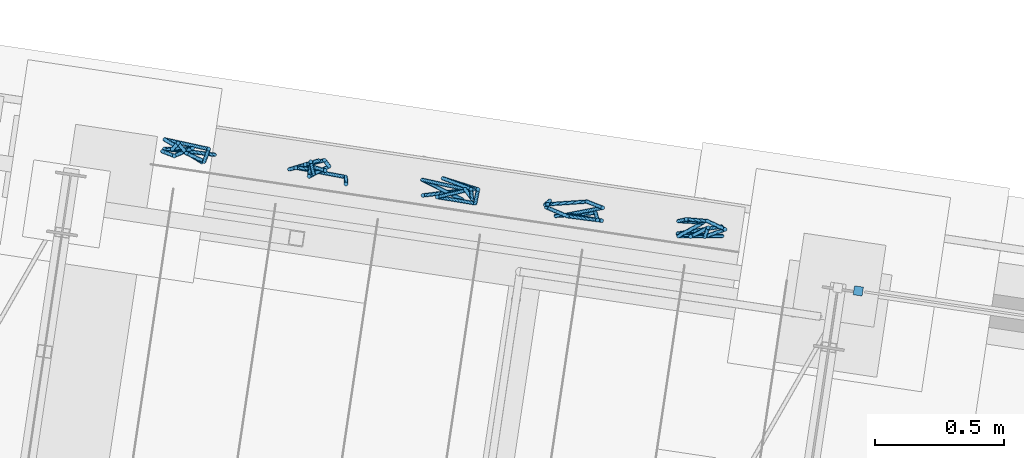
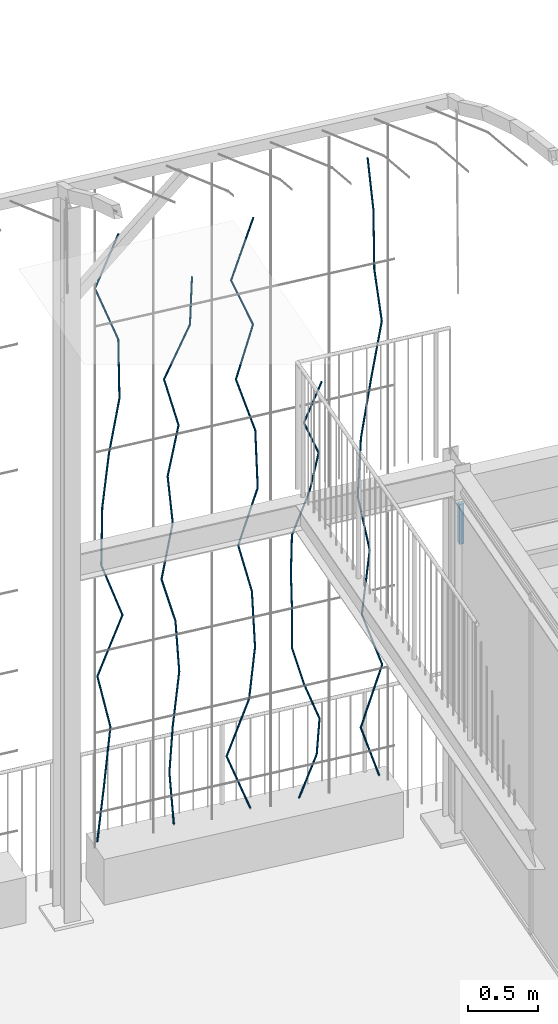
# One storey, part 115 of 143: 56 members, 1 element without a shape of its own.
"""IFC4 building model written with IfcOpenShell, lengths in metres."""

from ifc_helpers import new_model, si_unit, direction, frame, origin_with_axes, place, context, subcontext, project, spatial, rectangle, circle, extrude, material, material_profile, profile_set, profile_usage, type_object, element, aggregate, save


model = new_model("IFC4")

# Units and contexts
model_context = context("Model", 3, precision=1e-05, world=origin_with_axes(), true_north=direction((0.0, 1.0)))
body_context = subcontext(model_context, "Body", "Model", "MODEL_VIEW")
ifc_project = project(units=[si_unit("VOLUMEUNIT", "CUBIC_METRE"), si_unit("LENGTHUNIT", "METRE"), si_unit("AREAUNIT", "SQUARE_METRE")], contexts=[model_context])

# Site, building, storey
site_placement = place(None, origin_with_axes())
site = spatial("IfcSite", under=ifc_project, at=site_placement, Name="Lares · Rua das Mercês · artigo 4771")
building_placement = place(site_placement, frame((15.0, 9.7, 15.8), z_axis=(0.0, 0.0, 1.0), x_axis=(0.989015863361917, -0.147809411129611, 0.0)))
building = spatial("IfcBuilding", under=site, at=building_placement, Name="Casa Sobreposta")
storey_placement = place(building_placement, origin_with_axes())
storey = spatial("IfcBuildingStorey", under=building, at=storey_placement, Name="00 · Habitação e estacionamento", Elevation=15.8)

# Member
ifc_material_1 = material(Name="Aço pintado / Stahl lackiert", Category="steel")
ifc_material_profile_1 = material_profile(ifc_material_1, rectangle(XDim=0.035, YDim=0.035))
ifc_profile_set_1 = profile_set([ifc_material_profile_1], Name="R0.035")
ifc_profile_usage_1 = profile_usage(ifc_profile_set_1)
member_type_1 = type_object("IfcMemberType", Name="R0.035 / steel", PredefinedType="NOTDEFINED", material=ifc_profile_set_1)
member_1_placement = place(storey_placement, frame((0.08, 6.4, 2.35), z_axis=(0.0, 0.0, 1.0), x_axis=(1.0, 0.0, 0.0)))
element("IfcMember", 1, at=member_1_placement, inside=storey, type_object=member_type_1, material=ifc_profile_usage_1, Name="Rasgo norte 1 · montante", context=body_context, shape_type="SweptSolid", body=[
    extrude(rectangle(XDim=0.035, YDim=0.035), origin_with_axes(), (0.0, 0.0, 1.0), 0.35),
])

# Assembly, members
assembly_placement = place(storey_placement, origin_with_axes())
assembly = element("IfcElementAssembly", 2, at=assembly_placement, inside=storey, Name="Fachada sul e pátio · estrutura e trepadeiras", ObjectType="LIVING_SHADE_TRELLIS", PredefinedType="USERDEFINED")
ifc_material_2 = material(Name="Ramos de trepadeiras", Category="wood")
ifc_material_profile_2 = material_profile(ifc_material_2, circle(Radius=0.0075))
ifc_profile_set_2 = profile_set([ifc_material_profile_2], Name="D0.015")
ifc_profile_usage_2 = profile_usage(ifc_profile_set_2)
member_type_2 = type_object("IfcMemberType", Name="D0.015 / vine_wood", PredefinedType="NOTDEFINED", material=ifc_profile_set_2)
member_2_placement = place(assembly_placement, frame((-2.66241995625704, 6.53629999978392, 0.35), z_axis=(0.0980987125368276, -0.0226170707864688, 0.994919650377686), x_axis=(-0.224660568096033, -0.974437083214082, 0.0)))
member_2 = element("IfcMember", 3, at=member_2_placement, type_object=member_type_2, material=ifc_profile_usage_2, Name="Trepadeiras · ramo", context=body_context, shape_type="SweptSolid", body=[
    extrude(circle(Radius=0.0075), origin_with_axes(), (0.0, 0.0, 1.0), 0.482973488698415),
])
ifc_profile_usage_3 = profile_usage(ifc_profile_set_2)
member_3_placement = place(assembly_placement, frame((-2.61504087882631, 6.52537655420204, 0.830519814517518), z_axis=(0.135008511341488, 0.0817946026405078, 0.987462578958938), x_axis=(0.518168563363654, -0.855278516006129, 0.0)))
member_3 = element("IfcMember", 4, at=member_3_placement, type_object=member_type_2, material=ifc_profile_usage_3, Name="Trepadeiras · ramo", context=body_context, shape_type="SweptSolid", body=[
    extrude(circle(Radius=0.0075), origin_with_axes(), (0.0, 0.0, 1.0), 0.486620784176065),
])
ifc_profile_usage_4 = profile_usage(ifc_profile_set_2)
member_4_placement = place(assembly_placement, frame((-2.54934293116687, 6.56517950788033, 1.31103962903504), z_axis=(-0.218609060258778, -0.0389522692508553, 0.975034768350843), x_axis=(-0.17541938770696, 0.984493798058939, 0.0)))
member_4 = element("IfcMember", 5, at=member_4_placement, type_object=member_type_2, material=ifc_profile_usage_4, Name="Trepadeiras · ramo", context=body_context, shape_type="SweptSolid", body=[
    extrude(circle(Radius=0.0075), origin_with_axes(), (0.0, 0.0, 1.0), 0.492823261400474),
])
ifc_profile_usage_5 = profile_usage(ifc_profile_set_2)
member_5_placement = place(assembly_placement, frame((-2.65707856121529, 6.54598292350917, 1.79155944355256), z_axis=(0.376987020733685, 0.0134283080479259, 0.926121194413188), x_axis=(0.0355975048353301, -0.999366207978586, 0.0)))
member_5 = element("IfcMember", 6, at=member_5_placement, type_object=member_type_2, material=ifc_profile_usage_5, Name="Trepadeiras · ramo", context=body_context, shape_type="SweptSolid", body=[
    extrude(circle(Radius=0.0075), origin_with_axes(), (0.0, 0.0, 1.0), 0.518851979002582),
])
ifc_profile_usage_6 = profile_usage(ifc_profile_set_2)
member_6_placement = place(assembly_placement, frame((-2.46147809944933, 6.5529502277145, 2.27207925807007), z_axis=(-0.323902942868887, -0.0066980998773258, 0.946066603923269), x_axis=(-0.0206749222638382, 0.999786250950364, 0.0)))
member_6 = element("IfcMember", 7, at=member_6_placement, type_object=member_type_2, material=ifc_profile_usage_6, Name="Trepadeiras · ramo", context=body_context, shape_type="SweptSolid", body=[
    extrude(circle(Radius=0.0075), origin_with_axes(), (0.0, 0.0, 1.0), 0.507913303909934),
])
ifc_profile_usage_7 = profile_usage(ifc_profile_set_2)
member_7_placement = place(assembly_placement, frame((-2.62599271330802, 6.54954817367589, 2.75259907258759), z_axis=(0.0384024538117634, 0.0563066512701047, 0.997674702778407), x_axis=(0.826148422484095, -0.563452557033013, 0.0)))
member_7 = element("IfcMember", 8, at=member_7_placement, type_object=member_type_2, material=ifc_profile_usage_7, Name="Trepadeiras · ramo", context=body_context, shape_type="SweptSolid", body=[
    extrude(circle(Radius=0.0075), origin_with_axes(), (0.0, 0.0, 1.0), 0.481639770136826),
])
ifc_profile_usage_8 = profile_usage(ifc_profile_set_2)
member_8_placement = place(assembly_placement, frame((-2.60749656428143, 6.57666769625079, 3.23311888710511), z_axis=(0.0776410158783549, -0.0701661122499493, 0.994509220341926), x_axis=(-0.670490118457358, -0.741918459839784, 0.0)))
member_8 = element("IfcMember", 9, at=member_8_placement, type_object=member_type_2, material=ifc_profile_usage_8, Name="Trepadeiras · ramo", context=body_context, shape_type="SweptSolid", body=[
    extrude(circle(Radius=0.0075), origin_with_axes(), (0.0, 0.0, 1.0), 0.483172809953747),
])
ifc_profile_usage_9 = profile_usage(ifc_profile_set_2)
member_9_placement = place(assembly_placement, frame((-2.56998253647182, 6.54276533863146, 3.71363870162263), z_axis=(0.149871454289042, -0.0436983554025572, 0.987739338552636), x_axis=(-0.279916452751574, -0.960024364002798, 0.0)))
member_9 = element("IfcMember", 10, at=member_9_placement, type_object=member_type_2, material=ifc_profile_usage_9, Name="Trepadeiras · ramo", context=body_context, shape_type="SweptSolid", body=[
    extrude(circle(Radius=0.0075), origin_with_axes(), (0.0, 0.0, 1.0), 0.486484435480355),
])
ifc_profile_usage_10 = profile_usage(ifc_profile_set_2)
member_10_placement = place(assembly_placement, frame((-2.4970724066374, 6.52150676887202, 4.19415851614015), z_axis=(0.021645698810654, 0.103291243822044, 0.994415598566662), x_axis=(0.978740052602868, -0.205104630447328, 0.0)))
member_10 = element("IfcMember", 11, at=member_10_placement, type_object=member_type_2, material=ifc_profile_usage_10, Name="Trepadeiras · ramo", context=body_context, shape_type="SweptSolid", body=[
    extrude(circle(Radius=0.0075), origin_with_axes(), (0.0, 0.0, 1.0), 0.483218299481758),
])
ifc_profile_usage_11 = profile_usage(ifc_profile_set_2)
member_11_placement = place(assembly_placement, frame((-2.48661280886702, 6.57141898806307, 4.67467833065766), z_axis=(-0.34084918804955, 0.0223344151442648, 0.939852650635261), x_axis=(0.0653855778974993, 0.997860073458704, 0.0)))
member_11 = element("IfcMember", 12, at=member_11_placement, type_object=member_type_2, material=ifc_profile_usage_11, Name="Trepadeiras · ramo", context=body_context, shape_type="SweptSolid", body=[
    extrude(circle(Radius=0.0075), origin_with_axes(), (0.0, 0.0, 1.0), 0.511271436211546),
])
ifc_profile_usage_12 = profile_usage(ifc_profile_set_2)
member_12_placement = place(assembly_placement, frame((-2.66087926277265, 6.58283793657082, 5.15519814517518), z_axis=(0.304730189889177, -0.127303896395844, 0.943892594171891), x_axis=(-0.385474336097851, -0.92271855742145, 0.0)))
member_12 = element("IfcMember", 13, at=member_12_placement, type_object=member_type_2, material=ifc_profile_usage_12, Name="Trepadeiras · ramo", context=body_context, shape_type="SweptSolid", body=[
    extrude(circle(Radius=0.0075), origin_with_axes(), (0.0, 0.0, 1.0), 0.509083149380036),
])
ifc_profile_usage_13 = profile_usage(ifc_profile_set_2)
member_13_placement = place(assembly_placement, frame((-2.07205180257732, 6.53766977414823, 0.35), z_axis=(-0.0394783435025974, 0.10080487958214, 0.99412264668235), x_axis=(0.931139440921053, 0.364663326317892, 0.0)))
member_13 = element("IfcMember", 14, at=member_13_placement, type_object=member_type_2, material=ifc_profile_usage_13, Name="Trepadeiras · ramo", context=body_context, shape_type="SweptSolid", body=[
    extrude(circle(Radius=0.0075), origin_with_axes(), (0.0, 0.0, 1.0), 0.435980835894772),
])
ifc_profile_usage_14 = profile_usage(ifc_profile_set_2)
member_14_placement = place(assembly_placement, frame((-2.08926360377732, 6.58161876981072, 0.783418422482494), z_axis=(0.00546412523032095, -0.131646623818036, 0.991281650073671), x_axis=(-0.999139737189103, -0.0414702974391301, 0.0)))
member_14 = element("IfcMember", 15, at=member_14_placement, type_object=member_type_2, material=ifc_profile_usage_14, Name="Trepadeiras · ramo", context=body_context, shape_type="SweptSolid", body=[
    extrude(circle(Radius=0.0075), origin_with_axes(), (0.0, 0.0, 1.0), 0.437230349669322),
])
ifc_profile_usage_15 = profile_usage(ifc_profile_set_2)
member_15_placement = place(assembly_placement, frame((-2.08687452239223, 6.52405887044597, 1.21683684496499), z_axis=(0.159219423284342, 0.113560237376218, 0.980690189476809), x_axis=(0.580669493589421, -0.814139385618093, 0.0)))
member_15 = element("IfcMember", 16, at=member_15_placement, type_object=member_type_2, material=ifc_profile_usage_15, Name="Trepadeiras · ramo", context=body_context, shape_type="SweptSolid", body=[
    extrude(circle(Radius=0.0075), origin_with_axes(), (0.0, 0.0, 1.0), 0.441952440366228),
])
ifc_profile_usage_16 = profile_usage(ifc_profile_set_2)
member_16_placement = place(assembly_placement, frame((-2.01650710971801, 6.57424709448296, 1.65025526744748), z_axis=(-0.0483811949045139, 0.0474077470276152, 0.997703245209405), x_axis=(0.699884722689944, 0.714255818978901, 0.0)))
member_16 = element("IfcMember", 17, at=member_16_placement, type_object=member_type_2, material=ifc_profile_usage_16, Name="Trepadeiras · ramo", context=body_context, shape_type="SweptSolid", body=[
    extrude(circle(Radius=0.0075), origin_with_axes(), (0.0, 0.0, 1.0), 0.434416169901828),
])
ifc_profile_usage_17 = profile_usage(ifc_profile_set_2)
member_17_placement = place(assembly_placement, frame((-2.03752468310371, 6.59484178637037, 2.08367368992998), z_axis=(-0.28279176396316, -0.120579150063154, 0.95157211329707), x_axis=(-0.392222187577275, 0.919870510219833, -2.14779037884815e-17)))
member_17 = element("IfcMember", 18, at=member_17_placement, type_object=member_type_2, material=ifc_profile_usage_17, Name="Trepadeiras · ramo", context=body_context, shape_type="SweptSolid", body=[
    extrude(circle(Radius=0.0075), origin_with_axes(), (0.0, 0.0, 1.0), 0.455476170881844),
])
ifc_profile_usage_18 = profile_usage(ifc_profile_set_2)
member_18_placement = place(assembly_placement, frame((-2.16632959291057, 6.53992085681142, 2.51709211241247), z_axis=(0.235859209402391, 0.111435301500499, 0.965376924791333), x_axis=(0.427186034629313, -0.904163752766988, 0.0)))
member_18 = element("IfcMember", 19, at=member_18_placement, type_object=member_type_2, material=ifc_profile_usage_18, Name="Trepadeiras · ramo", context=body_context, shape_type="SweptSolid", body=[
    extrude(circle(Radius=0.0075), origin_with_axes(), (0.0, 0.0, 1.0), 0.448962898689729),
])
ifc_profile_usage_19 = profile_usage(ifc_profile_set_2)
member_19_placement = place(assembly_placement, frame((-2.0604375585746, 6.58995117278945, 2.95051053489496), z_axis=(-0.110181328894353, -0.0517286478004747, 0.992564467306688), x_axis=(-0.424980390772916, 0.905202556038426, 0.0)))
member_19 = element("IfcMember", 20, at=member_19_placement, type_object=member_type_2, material=ifc_profile_usage_19, Name="Trepadeiras · ramo", context=body_context, shape_type="SweptSolid", body=[
    extrude(circle(Radius=0.0075), origin_with_axes(), (0.0, 0.0, 1.0), 0.436665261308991),
])
ifc_profile_usage_20 = profile_usage(ifc_profile_set_2)
member_20_placement = place(assembly_placement, frame((-2.10854991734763, 6.56736306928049, 3.38392895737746), z_axis=(0.180465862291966, -0.0257609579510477, 0.983243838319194), x_axis=(-0.141314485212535, -0.989964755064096, 0.0)))
member_20 = element("IfcMember", 21, at=member_20_placement, type_object=member_type_2, material=ifc_profile_usage_20, Name="Trepadeiras · ramo", context=body_context, shape_type="SweptSolid", body=[
    extrude(circle(Radius=0.0075), origin_with_axes(), (0.0, 0.0, 1.0), 0.440804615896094),
])
ifc_profile_usage_21 = profile_usage(ifc_profile_set_2)
member_21_placement = place(assembly_placement, frame((-2.02899973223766, 6.55600752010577, 3.81734737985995), z_axis=(-0.254599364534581, -0.0136352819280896, 0.966950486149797), x_axis=(-0.053479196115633, 0.998568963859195, 0.0)))
member_21 = element("IfcMember", 22, at=member_21_placement, type_object=member_type_2, material=ifc_profile_usage_21, Name="Trepadeiras · ramo", context=body_context, shape_type="SweptSolid", body=[
    extrude(circle(Radius=0.0075), origin_with_axes(), (0.0, 0.0, 1.0), 0.448232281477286),
])
ifc_profile_usage_22 = profile_usage(ifc_profile_set_2)
member_22_placement = place(assembly_placement, frame((-2.14311938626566, 6.54989574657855, 4.25076580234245), z_axis=(0.413277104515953, -0.0153882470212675, 0.910475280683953), x_axis=(-0.0372089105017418, -0.999307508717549, 1.90952884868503e-18)))
member_22 = element("IfcMember", 23, at=member_22_placement, type_object=member_type_2, material=ifc_profile_usage_22, Name="Trepadeiras · ramo", context=body_context, shape_type="SweptSolid", body=[
    extrude(circle(Radius=0.0075), origin_with_axes(), (0.0, 0.0, 1.0), 0.476035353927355),
])
ifc_profile_usage_23 = profile_usage(ifc_profile_set_2)
member_23_placement = place(assembly_placement, frame((-1.94638487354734, 6.54257039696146, 4.68418422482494), z_axis=(0.0110075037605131, -0.061857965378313, 0.998024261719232), x_axis=(-0.984533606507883, -0.175195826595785, 0.0)))
member_23 = element("IfcMember", 24, at=member_23_placement, type_object=member_type_2, material=ifc_profile_usage_23, Name="Trepadeiras · ramo", context=body_context, shape_type="SweptSolid", body=[
    extrude(circle(Radius=0.0075), origin_with_axes(), (0.0, 0.0, 1.0), 0.434276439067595),
])
ifc_profile_usage_24 = profile_usage(ifc_profile_set_2)
member_24_placement = place(assembly_placement, frame((-1.4880449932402, 6.52300224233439, 0.35), z_axis=(-0.329931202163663, 0.106180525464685, 0.938014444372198), x_axis=(0.306352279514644, 0.951918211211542, 0.0)))
member_24 = element("IfcMember", 25, at=member_24_placement, type_object=member_type_2, material=ifc_profile_usage_24, Name="Trepadeiras · ramo", context=body_context, shape_type="SweptSolid", body=[
    extrude(circle(Radius=0.0075), origin_with_axes(), (0.0, 0.0, 1.0), 0.496490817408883),
])
ifc_profile_usage_25 = profile_usage(ifc_profile_set_2)
member_25_placement = place(assembly_placement, frame((-1.65185280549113, 6.57571989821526, 0.815715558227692), z_axis=(0.340456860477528, -0.0227078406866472, 0.939985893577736), x_axis=(-0.0665502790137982, -0.997783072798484, 0.0)))
member_25 = element("IfcMember", 26, at=member_25_placement, type_object=member_type_2, material=ifc_profile_usage_25, Name="Trepadeiras · ramo", context=body_context, shape_type="SweptSolid", body=[
    extrude(circle(Radius=0.0075), origin_with_axes(), (0.0, 0.0, 1.0), 0.495449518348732),
])
ifc_profile_usage_26 = profile_usage(ifc_profile_set_2)
member_26_placement = place(assembly_placement, frame((-1.48317361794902, 6.56446930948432, 1.28143111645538), z_axis=(0.0695333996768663, -0.0700445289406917, 0.995117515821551), x_axis=(-0.709691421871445, -0.704512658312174, 8.74520446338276e-18)))
member_26 = element("IfcMember", 27, at=member_26_placement, type_object=member_type_2, material=ifc_profile_usage_26, Name="Trepadeiras · ramo", context=body_context, shape_type="SweptSolid", body=[
    extrude(circle(Radius=0.0075), origin_with_axes(), (0.0, 0.0, 1.0), 0.468000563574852),
])
ifc_profile_usage_27 = profile_usage(ifc_profile_set_2)
member_27_placement = place(assembly_placement, frame((-1.45063194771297, 6.53168843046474, 1.74714667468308), z_axis=(-0.0210306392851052, 0.076673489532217, 0.996834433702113), x_axis=(0.964380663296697, 0.264518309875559, 0.0)))
member_27 = element("IfcMember", 28, at=member_27_placement, type_object=member_type_2, material=ifc_profile_usage_27, Name="Trepadeiras · ramo", context=body_context, shape_type="SweptSolid", body=[
    extrude(circle(Radius=0.0075), origin_with_axes(), (0.0, 0.0, 1.0), 0.467194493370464),
])
ifc_profile_usage_28 = profile_usage(ifc_profile_set_2)
member_28_placement = place(assembly_placement, frame((-1.46045734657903, 6.56750986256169, 2.21286223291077), z_axis=(-0.25756955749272, -0.101450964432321, 0.96091915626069), x_axis=(-0.366475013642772, 0.930427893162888, 0.0)))
member_28 = element("IfcMember", 29, at=member_28_placement, type_object=member_type_2, material=ifc_profile_usage_28, Name="Trepadeiras · ramo", context=body_context, shape_type="SweptSolid", body=[
    extrude(circle(Radius=0.0075), origin_with_axes(), (0.0, 0.0, 1.0), 0.484656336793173),
])
ifc_profile_usage_29 = profile_usage(ifc_profile_set_2)
member_29_placement = place(assembly_placement, frame((-1.58529006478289, 6.51834100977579, 2.67857779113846), z_axis=(0.305092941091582, -0.00422862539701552, 0.952313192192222), x_axis=(-0.0138587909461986, -0.999903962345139, 0.0)))
member_29 = element("IfcMember", 30, at=member_29_placement, type_object=member_type_2, material=ifc_profile_usage_29, Name="Trepadeiras · ramo", context=body_context, shape_type="SweptSolid", body=[
    extrude(circle(Radius=0.0075), origin_with_axes(), (0.0, 0.0, 1.0), 0.489036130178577),
])
ifc_profile_usage_30 = profile_usage(ifc_profile_set_2)
member_30_placement = place(assembly_placement, frame((-1.43608859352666, 6.51627305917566, 3.14429334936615), z_axis=(0.00592236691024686, 0.116385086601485, 0.993186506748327), x_axis=(0.998707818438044, -0.0508202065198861, 0.0)))
member_30 = element("IfcMember", 31, at=member_30_placement, type_object=member_type_2, material=ifc_profile_usage_30, Name="Trepadeiras · ramo", context=body_context, shape_type="SweptSolid", body=[
    extrude(circle(Radius=0.0075), origin_with_axes(), (0.0, 0.0, 1.0), 0.468910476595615),
])
ifc_profile_usage_31 = profile_usage(ifc_profile_set_2)
member_31_placement = place(assembly_placement, frame((-1.43331153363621, 6.57084724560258, 3.61000890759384), z_axis=(-0.287457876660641, 0.0458000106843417, 0.956697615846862), x_axis=(0.157343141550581, 0.987543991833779, 0.0)))
member_31 = element("IfcMember", 32, at=member_31_placement, type_object=member_type_2, material=ifc_profile_usage_31, Name="Trepadeiras · ramo", context=body_context, shape_type="SweptSolid", body=[
    extrude(circle(Radius=0.0075), origin_with_axes(), (0.0, 0.0, 1.0), 0.486794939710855),
])
ifc_profile_usage_32 = profile_usage(ifc_profile_set_2)
member_32_placement = place(assembly_placement, frame((-1.57324457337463, 6.59314245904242, 4.07572446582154), z_axis=(0.251593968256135, -0.0539595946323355, 0.966327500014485), x_axis=(-0.209702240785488, -0.977765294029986, 6.51461848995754e-18)))
member_32 = element("IfcMember", 33, at=member_32_placement, type_object=member_type_2, material=ifc_profile_usage_32, Name="Trepadeiras · ramo", context=body_context, shape_type="SweptSolid", body=[
    extrude(circle(Radius=0.0075), origin_with_axes(), (0.0, 0.0, 1.0), 0.481943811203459),
])
ifc_profile_usage_33 = profile_usage(ifc_profile_set_2)
member_33_placement = place(assembly_placement, frame((-1.45199041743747, 6.56713696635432, 4.54144002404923), z_axis=(-0.373949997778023, -0.10054929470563, 0.92198223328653), x_axis=(-0.259661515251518, 0.965699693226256, 0.0)))
member_33 = element("IfcMember", 34, at=member_33_placement, type_object=member_type_2, material=ifc_profile_usage_33, Name="Trepadeiras · ramo", context=body_context, shape_type="SweptSolid", body=[
    extrude(circle(Radius=0.0075), origin_with_axes(), (0.0, 0.0, 1.0), 0.505124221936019),
])
ifc_profile_usage_34 = profile_usage(ifc_profile_set_2)
member_34_placement = place(assembly_placement, frame((-1.64088161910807, 6.51634708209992, 5.00715558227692), z_axis=(0.381785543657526, 0.109148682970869, 0.917783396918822), x_axis=(0.274877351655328, -0.961479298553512, 0.0)))
member_34 = element("IfcMember", 35, at=member_34_placement, type_object=member_type_2, material=ifc_profile_usage_34, Name="Trepadeiras · ramo", context=body_context, shape_type="SweptSolid", body=[
    extrude(circle(Radius=0.0075), origin_with_axes(), (0.0, 0.0, 1.0), 0.507435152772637),
])
ifc_profile_usage_35 = profile_usage(ifc_profile_set_2)
member_35_placement = place(assembly_placement, frame((-1.12149175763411, 6.51383701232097, 0.35), z_axis=(0.419290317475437, 0.0947729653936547, 0.902891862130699), x_axis=(0.220470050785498, -0.975393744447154, 0.0)))
member_35 = element("IfcMember", 36, at=member_35_placement, type_object=member_type_2, material=ifc_profile_usage_35, Name="Trepadeiras · ramo", context=body_context, shape_type="SweptSolid", body=[
    extrude(circle(Radius=0.0075), origin_with_axes(), (0.0, 0.0, 1.0), 0.361500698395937),
])
ifc_profile_usage_36 = profile_usage(ifc_profile_set_2)
member_36_placement = place(assembly_placement, frame((-0.969918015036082, 6.54809750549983, 0.676396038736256), z_axis=(0.03525048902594, -0.0797363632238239, 0.996192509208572), x_axis=(-0.914609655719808, -0.404337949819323, 0.0)))
member_36 = element("IfcMember", 37, at=member_36_placement, type_object=member_type_2, material=ifc_profile_usage_36, Name="Trepadeiras · ramo", context=body_context, shape_type="SweptSolid", body=[
    extrude(circle(Radius=0.0075), origin_with_axes(), (0.0, 0.0, 1.0), 0.327643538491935),
])
ifc_profile_usage_37 = profile_usage(ifc_profile_set_2)
member_37_placement = place(assembly_placement, frame((-0.958368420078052, 6.52197240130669, 1.00279207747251), z_axis=(-0.3399758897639, -0.00695236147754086, 0.940408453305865), x_axis=(-0.0204452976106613, 0.999790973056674, 0.0)))
member_37 = element("IfcMember", 38, at=member_37_placement, type_object=member_type_2, material=ifc_profile_usage_37, Name="Trepadeiras · ramo", context=body_context, shape_type="SweptSolid", body=[
    extrude(circle(Radius=0.0075), origin_with_axes(), (0.0, 0.0, 1.0), 0.347079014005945),
])
ifc_profile_usage_38 = profile_usage(ifc_profile_set_2)
member_38_placement = place(assembly_placement, frame((-1.0763669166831, 6.51955938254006, 1.32918811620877), z_axis=(-0.252592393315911, 0.065290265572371, 0.965367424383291), x_axis=(0.250255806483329, 0.968179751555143, 0.0)))
member_38 = element("IfcMember", 39, at=member_38_placement, type_object=member_type_2, material=ifc_profile_usage_38, Name="Trepadeiras · ramo", context=body_context, shape_type="SweptSolid", body=[
    extrude(circle(Radius=0.0075), origin_with_axes(), (0.0, 0.0, 1.0), 0.338105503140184),
])
ifc_profile_usage_39 = profile_usage(ifc_profile_set_2)
member_39_placement = place(assembly_placement, frame((-1.16176979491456, 6.54163438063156, 1.65558415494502), z_axis=(0.028988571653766, 0.0810829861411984, 0.996285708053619), x_axis=(0.941630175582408, -0.336649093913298, 5.01770122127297e-18)))
member_39 = element("IfcMember", 40, at=member_39_placement, type_object=member_type_2, material=ifc_profile_usage_39, Name="Trepadeiras · ramo", context=body_context, shape_type="SweptSolid", body=[
    extrude(circle(Radius=0.0075), origin_with_axes(), (0.0, 0.0, 1.0), 0.3276128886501),
])
ifc_profile_usage_40 = profile_usage(ifc_profile_set_2)
member_40_placement = place(assembly_placement, frame((-1.15227276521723, 6.56819821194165, 1.98198019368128), z_axis=(-0.0447219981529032, -0.0524916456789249, 0.997619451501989), x_axis=(-0.761193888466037, 0.648524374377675, 0.0)))
member_40 = element("IfcMember", 41, at=member_40_placement, type_object=member_type_2, material=ifc_profile_usage_40, Name="Trepadeiras · ramo", context=body_context, shape_type="SweptSolid", body=[
    extrude(circle(Radius=0.0075), origin_with_axes(), (0.0, 0.0, 1.0), 0.327174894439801),
])
ifc_profile_usage_41 = profile_usage(ifc_profile_set_2)
member_41_placement = place(assembly_placement, frame((-1.16690468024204, 6.55102426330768, 2.30837623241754), z_axis=(0.0266388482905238, 0.00867833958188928, 0.999607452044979), x_axis=(0.999645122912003, -0.000231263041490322, -0.0266378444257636)))
member_41 = element("IfcMember", 42, at=member_41_placement, type_object=member_type_2, material=ifc_profile_usage_41, Name="Trepadeiras · ramo", context=body_context, shape_type="SweptSolid", body=[
    extrude(circle(Radius=0.0075), origin_with_axes(), (0.0, 0.0, 1.0), 0.326524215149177),
])
ifc_profile_usage_42 = profile_usage(ifc_profile_set_2)
member_42_placement = place(assembly_placement, frame((-1.1582064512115, 6.55385795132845, 2.63477227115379), z_axis=(0.413754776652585, 0.091014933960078, 0.905827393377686), x_axis=(0.214836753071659, -0.976649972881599, 0.0)))
member_42 = element("IfcMember", 43, at=member_42_placement, type_object=member_type_2, material=ifc_profile_usage_42, Name="Trepadeiras · ramo", context=body_context, shape_type="SweptSolid", body=[
    extrude(circle(Radius=0.0075), origin_with_axes(), (0.0, 0.0, 1.0), 0.360329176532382),
])
ifc_profile_usage_43 = profile_usage(ifc_profile_set_2)
member_43_placement = place(assembly_placement, frame((-1.00911853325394, 6.58665328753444, 2.96116830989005), z_axis=(0.190447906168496, -0.0442232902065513, 0.980700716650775), x_axis=(-0.226188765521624, -0.974083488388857, 0.0)))
member_43 = element("IfcMember", 44, at=member_43_placement, type_object=member_type_2, material=ifc_profile_usage_43, Name="Trepadeiras · ramo", context=body_context, shape_type="SweptSolid", body=[
    extrude(circle(Radius=0.0075), origin_with_axes(), (0.0, 0.0, 1.0), 0.332819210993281),
])
ifc_profile_usage_44 = profile_usage(ifc_profile_set_2)
member_44_placement = place(assembly_placement, frame((-0.945733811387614, 6.57193492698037, 3.2875643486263), z_axis=(-0.370023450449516, -0.13105571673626, 0.919732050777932), x_axis=(-0.333860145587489, 0.942622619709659, 0.0)))
member_44 = element("IfcMember", 45, at=member_44_placement, type_object=member_type_2, material=ifc_profile_usage_44, Name="Trepadeiras · ramo", context=body_context, shape_type="SweptSolid", body=[
    extrude(circle(Radius=0.0075), origin_with_axes(), (0.0, 0.0, 1.0), 0.354881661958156),
])
ifc_profile_usage_45 = profile_usage(ifc_profile_set_2)
member_45_placement = place(assembly_placement, frame((-1.07704834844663, 6.52542565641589, 3.61396038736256), z_axis=(0.383115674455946, -0.00913298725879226, 0.923655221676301), x_axis=(-0.023831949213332, -0.999715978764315, 0.0)))
member_45 = element("IfcMember", 46, at=member_45_placement, type_object=member_type_2, material=ifc_profile_usage_45, Name="Trepadeiras · ramo", context=body_context, shape_type="SweptSolid", body=[
    extrude(circle(Radius=0.0075), origin_with_axes(), (0.0, 0.0, 1.0), 0.353374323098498),
])
ifc_profile_usage_46 = profile_usage(ifc_profile_set_2)
member_46_placement = place(assembly_placement, frame((-0.480399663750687, 6.56797704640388, 0.35), z_axis=(-0.311350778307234, -0.0987830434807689, 0.945146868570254), x_axis=(-0.302416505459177, 0.953175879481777, 0.0)))
member_46 = element("IfcMember", 47, at=member_46_placement, type_object=member_type_2, material=ifc_profile_usage_46, Name="Trepadeiras · ramo", context=body_context, shape_type="SweptSolid", body=[
    extrude(circle(Radius=0.0075), origin_with_axes(), (0.0, 0.0, 1.0), 0.525354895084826),
])
ifc_profile_usage_47 = profile_usage(ifc_profile_set_2)
member_47_placement = place(assembly_placement, frame((-0.643969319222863, 6.51608089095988, 0.846537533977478), z_axis=(0.326477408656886, 0.0315753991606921, 0.944677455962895), x_axis=(0.0962662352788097, -0.995355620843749, 0.0)))
member_47 = element("IfcMember", 48, at=member_47_placement, type_object=member_type_2, material=ifc_profile_usage_47, Name="Trepadeiras · ramo", context=body_context, shape_type="SweptSolid", body=[
    extrude(circle(Radius=0.0075), origin_with_axes(), (0.0, 0.0, 1.0), 0.525615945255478),
])
ifc_profile_usage_48 = profile_usage(ifc_profile_set_2)
member_48_placement = place(assembly_placement, frame((-0.472367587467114, 6.53267742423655, 1.34307506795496), z_axis=(-0.317839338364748, -0.0486385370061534, 0.946896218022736), x_axis=(-0.151267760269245, 0.98849282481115, 0.0)))
member_48 = element("IfcMember", 49, at=member_48_placement, type_object=member_type_2, material=ifc_profile_usage_48, Name="Trepadeiras · ramo", context=body_context, shape_type="SweptSolid", body=[
    extrude(circle(Radius=0.0075), origin_with_axes(), (0.0, 0.0, 1.0), 0.524384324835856),
])
ifc_profile_usage_49 = profile_usage(ifc_profile_set_2)
member_49_placement = place(assembly_placement, frame((-0.639037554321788, 6.50717213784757, 1.83961260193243), z_axis=(0.170832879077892, 0.130242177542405, 0.976654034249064), x_axis=(0.606289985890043, -0.795243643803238, 0.0)))
member_49 = element("IfcMember", 50, at=member_49_placement, type_object=member_type_2, material=ifc_profile_usage_49, Name="Trepadeiras · ramo", context=body_context, shape_type="SweptSolid", body=[
    extrude(circle(Radius=0.0075), origin_with_axes(), (0.0, 0.0, 1.0), 0.508406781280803),
])
ifc_profile_usage_50 = profile_usage(ifc_profile_set_2)
member_50_placement = place(assembly_placement, frame((-0.552184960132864, 6.57338814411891, 2.33615013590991), z_axis=(-0.188994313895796, -0.0178059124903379, 0.98181673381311), x_axis=(-0.0937986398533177, 0.995591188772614, 0.0)))
member_50 = element("IfcMember", 51, at=member_50_placement, type_object=member_type_2, material=ifc_profile_usage_50, Name="Trepadeiras · ramo", context=body_context, shape_type="SweptSolid", body=[
    extrude(circle(Radius=0.0075), origin_with_axes(), (0.0, 0.0, 1.0), 0.505733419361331),
])
ifc_profile_usage_51 = profile_usage(ifc_profile_set_2)
member_51_placement = place(assembly_placement, frame((-0.647765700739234, 6.56438309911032, 2.83268766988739), z_axis=(0.0575558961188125, 0.0225222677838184, 0.998088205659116), x_axis=(0.364404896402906, -0.931240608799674, 0.0)))
member_51 = element("IfcMember", 52, at=member_51_placement, type_object=member_type_2, material=ifc_profile_usage_51, Name="Trepadeiras · ramo", context=body_context, shape_type="SweptSolid", body=[
    extrude(circle(Radius=0.0075), origin_with_axes(), (0.0, 0.0, 1.0), 0.497488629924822),
])
ifc_profile_usage_52 = profile_usage(ifc_profile_set_2)
member_52_placement = place(assembly_placement, frame((-0.61913229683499, 6.57558767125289, 3.32922520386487), z_axis=(0.160045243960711, 0.0106902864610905, 0.987051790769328), x_axis=(0.0666468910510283, -0.997776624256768, 0.0)))
member_52 = element("IfcMember", 53, at=member_52_placement, type_object=member_type_2, material=ifc_profile_usage_52, Name="Trepadeiras · ramo", context=body_context, shape_type="SweptSolid", body=[
    extrude(circle(Radius=0.0075), origin_with_axes(), (0.0, 0.0, 1.0), 0.503051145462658),
])
ifc_profile_usage_53 = profile_usage(ifc_profile_set_2)
member_53_placement = place(assembly_placement, frame((-0.538621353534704, 6.58096543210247, 3.82576273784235), z_axis=(0.146833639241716, -0.0429633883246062, 0.988227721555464), x_axis=(-0.280824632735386, -0.959759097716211, 0.0)))
member_53 = element("IfcMember", 54, at=member_53_placement, type_object=member_type_2, material=ifc_profile_usage_53, Name="Trepadeiras · ramo", context=body_context, shape_type="SweptSolid", body=[
    extrude(circle(Radius=0.0075), origin_with_axes(), (0.0, 0.0, 1.0), 0.502452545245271),
])
ifc_profile_usage_54 = profile_usage(ifc_profile_set_2)
member_54_placement = place(assembly_placement, frame((-0.464844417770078, 6.55937836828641, 4.32230027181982), z_axis=(-0.145740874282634, -0.0785755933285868, 0.986197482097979), x_axis=(-0.474566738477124, 0.880219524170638, 0.0)))
member_54 = element("IfcMember", 55, at=member_54_placement, type_object=member_type_2, material=ifc_profile_usage_54, Name="Trepadeiras · ramo", context=body_context, shape_type="SweptSolid", body=[
    extrude(circle(Radius=0.0075), origin_with_axes(), (0.0, 0.0, 1.0), 0.503486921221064),
])
ifc_profile_usage_55 = profile_usage(ifc_profile_set_2)
member_55_placement = place(assembly_placement, frame((-0.538223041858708, 6.51981658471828, 4.8188378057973), z_axis=(0.0151393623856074, 0.0732132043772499, 0.997201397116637), x_axis=(0.979282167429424, -0.202500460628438, 0.0)))
member_55 = element("IfcMember", 56, at=member_55_placement, type_object=member_type_2, material=ifc_profile_usage_55, Name="Trepadeiras · ramo", context=body_context, shape_type="SweptSolid", body=[
    extrude(circle(Radius=0.0075), origin_with_axes(), (0.0, 0.0, 1.0), 0.497931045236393),
])
ifc_profile_usage_56 = profile_usage(ifc_profile_set_2)
member_56_placement = place(assembly_placement, frame((-0.53068468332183, 6.55627171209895, 5.31537533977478), z_axis=(-0.123411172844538, -0.0880727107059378, 0.988439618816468), x_axis=(-0.580896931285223, 0.813977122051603, 0.0)))
member_56 = element("IfcMember", 57, at=member_56_placement, type_object=member_type_2, material=ifc_profile_usage_56, Name="Trepadeiras · ramo", context=body_context, shape_type="SweptSolid", body=[
    extrude(circle(Radius=0.0075), origin_with_axes(), (0.0, 0.0, 1.0), 0.502344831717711),
])
aggregate(assembly, [member_2, member_3, member_4, member_5, member_6, member_7, member_8, member_9, member_10, member_11, member_12, member_13, member_14, member_15, member_16, member_17, member_18, member_19, member_20, member_21, member_22, member_23, member_24, member_25, member_26, member_27, member_28, member_29, member_30, member_31, member_32, member_33, member_34, member_35, member_36, member_37, member_38, member_39, member_40, member_41, member_42, member_43, member_44, member_45, member_46, member_47, member_48, member_49, member_50, member_51, member_52, member_53, member_54, member_55, member_56])

save(model, "model.ifc")
